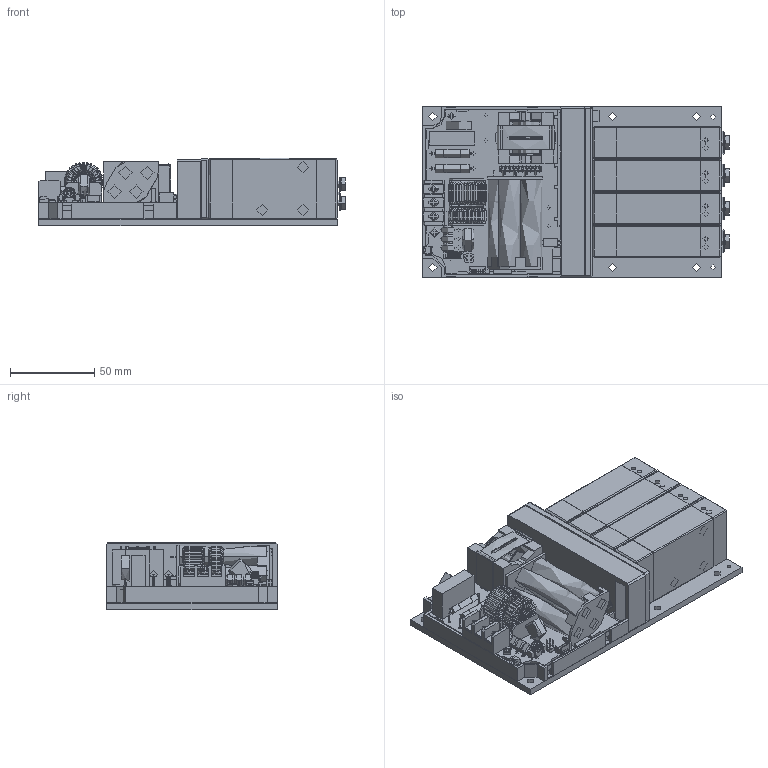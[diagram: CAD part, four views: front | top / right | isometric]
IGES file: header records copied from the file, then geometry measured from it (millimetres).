
Global section: file name: C:\Users\Marco\Desktop\VCCM_3D.igs; native system: AutoCAD-18.1s (LMS Tech) (Microsoft Windows NT Version 6.2 (x64)); preprocessor: Autodesk IGES Translator Mechanical Desktop 2011 (Feb 17 2010) from Autodesk, Inc.; date: 20180813.110439; units: millimetre
Bounding box: 182.35 x 101.6 x 40.2 mm (x, y, z)
Surface area: 215478.2 mm2 (no closed solid volume)
Topology: 0 solids, 0 shells, 9551 faces, 59274 edges, 59201 vertices
Faces by surface type: bspline 9551
